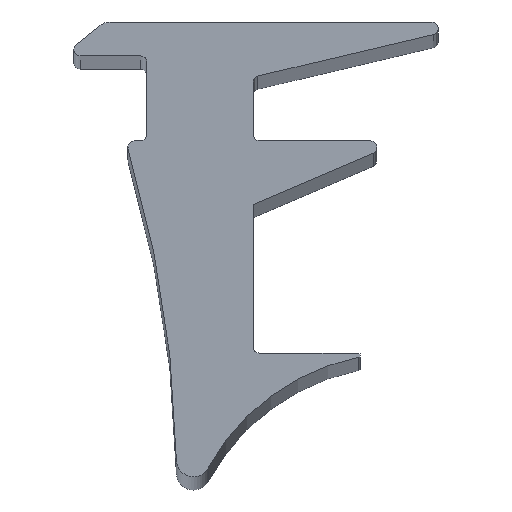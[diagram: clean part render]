
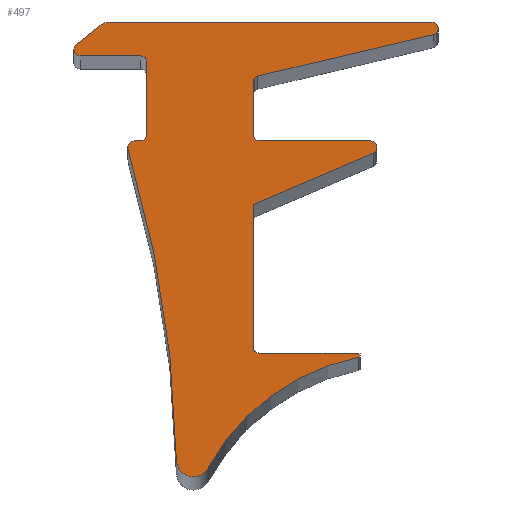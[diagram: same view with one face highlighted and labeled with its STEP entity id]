
A CAD part, top view. The second image highlights one B-rep face of the part: STEP entity #497.
In plain terms, the highlighted planar face has unit normal (0, 0, 1).
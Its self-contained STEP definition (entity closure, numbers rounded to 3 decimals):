
#17=PLANE('',#560);
#32=FACE_OUTER_BOUND('',#59,.T.);
#59=EDGE_LOOP('',(#366,#367,#368,#369,#370,#371,#372,#373,#374,#375,#376,
#377,#378,#379,#380,#381,#382,#383,#384,#385,#386,#387,#388,#389,#390));
#86=LINE('',#769,#133);
#99=LINE('',#826,#146);
#100=LINE('',#830,#147);
#101=LINE('',#834,#148);
#102=LINE('',#843,#149);
#103=LINE('',#847,#150);
#104=LINE('',#849,#151);
#105=LINE('',#853,#152);
#106=LINE('',#857,#153);
#107=LINE('',#861,#154);
#108=LINE('',#864,#155);
#133=VECTOR('',#609,11.25);
#146=VECTOR('',#658,11.25);
#147=VECTOR('',#661,11.25);
#148=VECTOR('',#664,11.25);
#149=VECTOR('',#673,11.25);
#150=VECTOR('',#676,11.25);
#151=VECTOR('',#677,11.25);
#152=VECTOR('',#680,11.25);
#153=VECTOR('',#683,11.25);
#154=VECTOR('',#686,11.25);
#155=VECTOR('',#689,11.25);
#176=CIRCLE('',#541,0.45);
#191=CIRCLE('',#559,0.45);
#192=CIRCLE('',#561,0.169);
#193=CIRCLE('',#562,0.169);
#194=CIRCLE('',#563,0.169);
#195=CIRCLE('',#564,0.169);
#196=CIRCLE('',#565,30.675);
#197=CIRCLE('',#566,5.829);
#198=CIRCLE('',#567,0.056);
#199=CIRCLE('',#568,0.169);
#200=CIRCLE('',#569,0.169);
#201=CIRCLE('',#570,0.169);
#202=CIRCLE('',#571,0.169);
#203=CIRCLE('',#572,0.169);
#204=VERTEX_POINT('',#756);
#205=VERTEX_POINT('',#757);
#209=VERTEX_POINT('',#767);
#232=VERTEX_POINT('',#817);
#233=VERTEX_POINT('',#819);
#234=VERTEX_POINT('',#823);
#235=VERTEX_POINT('',#825);
#236=VERTEX_POINT('',#827);
#237=VERTEX_POINT('',#829);
#238=VERTEX_POINT('',#831);
#239=VERTEX_POINT('',#833);
#240=VERTEX_POINT('',#835);
#241=VERTEX_POINT('',#838);
#242=VERTEX_POINT('',#840);
#243=VERTEX_POINT('',#842);
#244=VERTEX_POINT('',#844);
#245=VERTEX_POINT('',#846);
#246=VERTEX_POINT('',#848);
#247=VERTEX_POINT('',#850);
#248=VERTEX_POINT('',#852);
#249=VERTEX_POINT('',#854);
#250=VERTEX_POINT('',#856);
#251=VERTEX_POINT('',#858);
#252=VERTEX_POINT('',#860);
#253=VERTEX_POINT('',#862);
#254=EDGE_CURVE('',#204,#205,#176,.T.);
#260=EDGE_CURVE('',#204,#209,#86,.T.);
#285=EDGE_CURVE('',#232,#233,#191,.T.);
#287=EDGE_CURVE('',#234,#209,#192,.T.);
#288=EDGE_CURVE('',#234,#235,#99,.T.);
#289=EDGE_CURVE('',#236,#235,#193,.T.);
#290=EDGE_CURVE('',#236,#237,#100,.T.);
#291=EDGE_CURVE('',#238,#237,#194,.T.);
#292=EDGE_CURVE('',#238,#239,#101,.T.);
#293=EDGE_CURVE('',#240,#239,#195,.T.);
#294=EDGE_CURVE('',#240,#233,#196,.T.);
#295=EDGE_CURVE('',#232,#241,#197,.T.);
#296=EDGE_CURVE('',#242,#241,#198,.T.);
#297=EDGE_CURVE('',#242,#243,#102,.T.);
#298=EDGE_CURVE('',#244,#243,#199,.T.);
#299=EDGE_CURVE('',#244,#245,#103,.T.);
#300=EDGE_CURVE('',#245,#246,#104,.T.);
#301=EDGE_CURVE('',#247,#246,#200,.T.);
#302=EDGE_CURVE('',#247,#248,#105,.T.);
#303=EDGE_CURVE('',#249,#248,#201,.T.);
#304=EDGE_CURVE('',#249,#250,#106,.T.);
#305=EDGE_CURVE('',#251,#250,#202,.T.);
#306=EDGE_CURVE('',#251,#252,#107,.T.);
#307=EDGE_CURVE('',#253,#252,#203,.T.);
#308=EDGE_CURVE('',#253,#205,#108,.T.);
#366=ORIENTED_EDGE('',*,*,#254,.F.);
#367=ORIENTED_EDGE('',*,*,#260,.T.);
#368=ORIENTED_EDGE('',*,*,#287,.F.);
#369=ORIENTED_EDGE('',*,*,#288,.T.);
#370=ORIENTED_EDGE('',*,*,#289,.F.);
#371=ORIENTED_EDGE('',*,*,#290,.T.);
#372=ORIENTED_EDGE('',*,*,#291,.F.);
#373=ORIENTED_EDGE('',*,*,#292,.T.);
#374=ORIENTED_EDGE('',*,*,#293,.F.);
#375=ORIENTED_EDGE('',*,*,#294,.T.);
#376=ORIENTED_EDGE('',*,*,#285,.F.);
#377=ORIENTED_EDGE('',*,*,#295,.T.);
#378=ORIENTED_EDGE('',*,*,#296,.F.);
#379=ORIENTED_EDGE('',*,*,#297,.T.);
#380=ORIENTED_EDGE('',*,*,#298,.F.);
#381=ORIENTED_EDGE('',*,*,#299,.T.);
#382=ORIENTED_EDGE('',*,*,#300,.T.);
#383=ORIENTED_EDGE('',*,*,#301,.F.);
#384=ORIENTED_EDGE('',*,*,#302,.T.);
#385=ORIENTED_EDGE('',*,*,#303,.F.);
#386=ORIENTED_EDGE('',*,*,#304,.T.);
#387=ORIENTED_EDGE('',*,*,#305,.F.);
#388=ORIENTED_EDGE('',*,*,#306,.T.);
#389=ORIENTED_EDGE('',*,*,#307,.F.);
#390=ORIENTED_EDGE('',*,*,#308,.T.);
#497=ADVANCED_FACE('',(#32),#17,.T.);
#541=AXIS2_PLACEMENT_3D('',#758,#599,#600);
#559=AXIS2_PLACEMENT_3D('',#820,#651,#652);
#560=AXIS2_PLACEMENT_3D('',#822,#654,#655);
#561=AXIS2_PLACEMENT_3D('',#824,#656,#657);
#562=AXIS2_PLACEMENT_3D('',#828,#659,#660);
#563=AXIS2_PLACEMENT_3D('',#832,#662,#663);
#564=AXIS2_PLACEMENT_3D('',#836,#665,#666);
#565=AXIS2_PLACEMENT_3D('',#837,#667,#668);
#566=AXIS2_PLACEMENT_3D('',#839,#669,#670);
#567=AXIS2_PLACEMENT_3D('',#841,#671,#672);
#568=AXIS2_PLACEMENT_3D('',#845,#674,#675);
#569=AXIS2_PLACEMENT_3D('',#851,#678,#679);
#570=AXIS2_PLACEMENT_3D('',#855,#681,#682);
#571=AXIS2_PLACEMENT_3D('',#859,#684,#685);
#572=AXIS2_PLACEMENT_3D('',#863,#687,#688);
#599=DIRECTION('center_axis',(0.,0.,-1.));
#600=DIRECTION('ref_axis',(-0.331,0.944,0.));
#609=DIRECTION('',(-0.781,-0.625,0.));
#651=DIRECTION('center_axis',(0.,0.,-1.));
#652=DIRECTION('ref_axis',(1.,0.017,0.));
#654=DIRECTION('center_axis',(0.,0.,1.));
#655=DIRECTION('ref_axis',(1.,0.,0.));
#656=DIRECTION('center_axis',(0.,0.,-1.));
#657=DIRECTION('ref_axis',(-0.944,-0.331,0.));
#658=DIRECTION('',(1.,0.,0.));
#659=DIRECTION('center_axis',(0.,0.,1.));
#660=DIRECTION('ref_axis',(0.707,0.707,0.));
#661=DIRECTION('',(0.,-1.,0.));
#662=DIRECTION('center_axis',(0.,0.,1.));
#663=DIRECTION('ref_axis',(0.707,-0.707,0.));
#664=DIRECTION('',(-1.,0.,0.));
#665=DIRECTION('center_axis',(0.,0.,-1.));
#666=DIRECTION('ref_axis',(-0.802,0.597,0.));
#667=DIRECTION('center_axis',(0.,0.,-1.));
#668=DIRECTION('ref_axis',(-1.,0.,0.));
#669=DIRECTION('center_axis',(0.,0.,-1.));
#670=DIRECTION('ref_axis',(0.,-1.,0.));
#671=DIRECTION('center_axis',(0.,0.,-1.));
#672=DIRECTION('ref_axis',(0.995,0.098,0.));
#673=DIRECTION('',(-1.,0.,0.));
#674=DIRECTION('center_axis',(0.,0.,1.));
#675=DIRECTION('ref_axis',(-0.707,-0.707,0.));
#676=DIRECTION('',(0.,1.,0.));
#677=DIRECTION('',(0.919,0.394,0.));
#678=DIRECTION('center_axis',(0.,0.,-1.));
#679=DIRECTION('ref_axis',(0.98,0.201,0.));
#680=DIRECTION('',(-1.,0.,0.));
#681=DIRECTION('center_axis',(0.,0.,1.));
#682=DIRECTION('ref_axis',(-0.707,-0.707,0.));
#683=DIRECTION('',(0.,1.,0.));
#684=DIRECTION('center_axis',(0.,0.,1.));
#685=DIRECTION('ref_axis',(-0.784,0.62,0.));
#686=DIRECTION('',(0.973,0.23,0.));
#687=DIRECTION('center_axis',(0.,0.,-1.));
#688=DIRECTION('ref_axis',(0.993,0.116,0.));
#689=DIRECTION('',(-1.,0.,0.));
#756=CARTESIAN_POINT('',(-2.343,12.22,201.563));
#757=CARTESIAN_POINT('',(-2.062,12.319,201.563));
#758=CARTESIAN_POINT('Origin',(-2.062,11.869,201.563));
#767=CARTESIAN_POINT('',(-2.969,11.719,201.563));
#769=CARTESIAN_POINT('',(-2.22,12.319,201.563));
#817=CARTESIAN_POINT('',(0.533,0.498,201.563));
#819=CARTESIAN_POINT('',(-0.312,0.705,201.563));
#820=CARTESIAN_POINT('Origin',(0.138,0.713,201.563));
#822=CARTESIAN_POINT('Origin',(2.28,6.244,201.563));
#823=CARTESIAN_POINT('',(-2.864,11.419,201.563));
#824=CARTESIAN_POINT('Origin',(-2.864,11.588,201.563));
#825=CARTESIAN_POINT('',(-1.264,11.419,201.563));
#826=CARTESIAN_POINT('',(-3.345,11.419,201.563));
#827=CARTESIAN_POINT('',(-1.095,11.25,201.563));
#828=CARTESIAN_POINT('Origin',(-1.264,11.25,201.563));
#829=CARTESIAN_POINT('',(-1.095,9.338,201.563));
#830=CARTESIAN_POINT('',(-1.095,11.419,201.563));
#831=CARTESIAN_POINT('',(-1.264,9.169,201.563));
#832=CARTESIAN_POINT('Origin',(-1.264,9.338,201.563));
#833=CARTESIAN_POINT('',(-1.43,9.169,201.563));
#834=CARTESIAN_POINT('',(0.03,9.169,201.563));
#835=CARTESIAN_POINT('',(-1.592,8.952,201.563));
#836=CARTESIAN_POINT('Origin',(-1.43,9.,201.563));
#837=CARTESIAN_POINT('Origin',(-30.982,0.169,201.563));
#838=CARTESIAN_POINT('',(4.521,3.432,201.563));
#839=CARTESIAN_POINT('Origin',(5.655,-2.286,201.563));
#840=CARTESIAN_POINT('',(4.51,3.544,201.563));
#841=CARTESIAN_POINT('Origin',(4.51,3.488,201.563));
#842=CARTESIAN_POINT('',(1.886,3.544,201.563));
#843=CARTESIAN_POINT('',(5.655,3.544,201.563));
#844=CARTESIAN_POINT('',(1.718,3.713,201.563));
#845=CARTESIAN_POINT('Origin',(1.886,3.713,201.563));
#846=CARTESIAN_POINT('',(1.718,7.481,201.563));
#847=CARTESIAN_POINT('',(1.718,3.544,201.563));
#848=CARTESIAN_POINT('',(4.899,8.845,201.563));
#849=CARTESIAN_POINT('',(1.718,7.481,201.563));
#850=CARTESIAN_POINT('',(4.833,9.169,201.563));
#851=CARTESIAN_POINT('Origin',(4.833,9.,201.563));
#852=CARTESIAN_POINT('',(1.886,9.169,201.563));
#853=CARTESIAN_POINT('',(5.655,9.169,201.563));
#854=CARTESIAN_POINT('',(1.718,9.338,201.563));
#855=CARTESIAN_POINT('Origin',(1.886,9.338,201.563));
#856=CARTESIAN_POINT('',(1.718,10.723,201.563));
#857=CARTESIAN_POINT('',(1.718,9.169,201.563));
#858=CARTESIAN_POINT('',(1.848,10.887,201.563));
#859=CARTESIAN_POINT('Origin',(1.886,10.723,201.563));
#860=CARTESIAN_POINT('',(6.496,11.986,201.563));
#861=CARTESIAN_POINT('',(1.718,10.856,201.563));
#862=CARTESIAN_POINT('',(6.458,12.319,201.563));
#863=CARTESIAN_POINT('Origin',(6.458,12.15,201.563));
#864=CARTESIAN_POINT('',(7.905,12.319,201.563));
